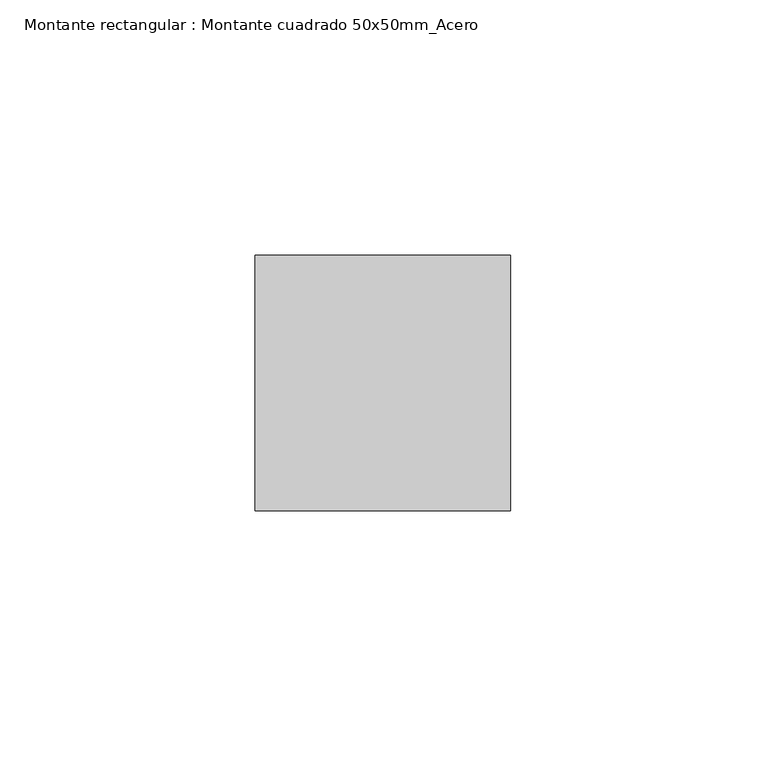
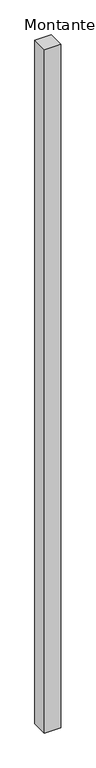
"""IFC4 building model written with IfcOpenShell, lengths in millimetres: member geometry, Montante rectangular : Montante cuadrado 50x50mm_Acero."""

from ifc_helpers import new_model, si_unit, frame, origin, place, context, project, spatial, polyline, outline, extrude, source, transform, mapped, element, save


def montante_rectangular_montante_cuadrado_50x50mm_acero_5c9733f6(model_context):
    return source(origin(), model_context, "Body", "SweptSolid", [
        extrude(outline(polyline([(0.0, 0.0), (50.0, 0.0), (50.0, -50.0), (0.0, -50.0), (0.0, 0.0)])), frame((0.0, 0.0, -2200.0), z_axis=(0.0, 0.0, 1.0), x_axis=(1.0, 0.0, 0.0)), (0.0, 0.0, 1.0), 2200.0),
    ])


if __name__ == "__main__":
    model = new_model("IFC4")
    model_context = context("Model", 3, world=origin())
    ifc_project = project(units=[si_unit("LENGTHUNIT", "METRE", prefix="MILLI")], contexts=[model_context])
    site = spatial("IfcSite", under=ifc_project)
    building = spatial("IfcBuilding", under=site)
    placement = place(None, origin())
    montante_rectangular_montante_cuadrado_50x50mm_acero_shape = montante_rectangular_montante_cuadrado_50x50mm_acero_5c9733f6(model_context)
    element("IfcMember", 1, ObjectType="Montante rectangular : Montante cuadrado 50x50mm_Acero", at=placement, inside=building, context=model_context, shape_type="MappedRepresentation", body=[
        mapped(montante_rectangular_montante_cuadrado_50x50mm_acero_shape, transform((0.0, 0.0, 0.0), x_axis=(1.0, 0.0, 0.0), y_axis=(0.0, 1.0, 0.0), z_axis=(0.0, 0.0, 1.0))),
    ])
    save(model, "model.ifc")
